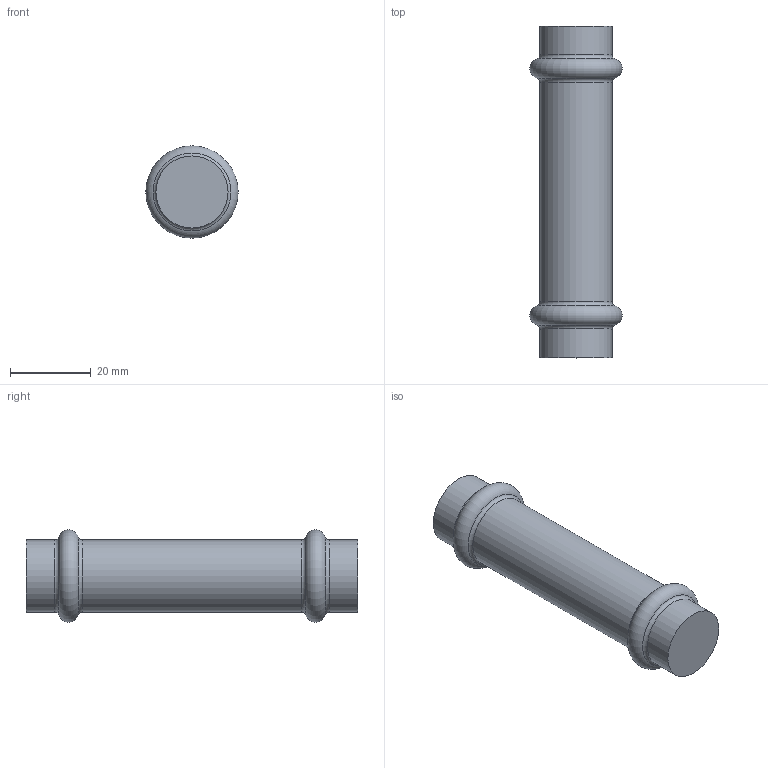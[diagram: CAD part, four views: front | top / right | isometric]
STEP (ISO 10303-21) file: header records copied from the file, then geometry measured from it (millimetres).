
FILE_DESCRIPTION(('STEP AP203'), '1');
FILE_NAME('VTi.904.I.001515', '', ('UNSPECIFIED'), ('UNSPECIFIED'), 'C3D Converter', 'C3D Toolkit', '');
FILE_SCHEMA(('CONFIG_CONTROL_DESIGN'));
Length unit declared in the file: millimetre
Bounding box: 22.78 x 82 x 22.78 mm (x, y, z)
Volume: 21664.1 mm3; surface area: 5494.5 mm2
Topology: 1 solids, 1 shells, 11 faces, 19 edges, 10 vertices
Faces by surface type: torus 6, cylinder 3, plane 2
Full cylindrical faces by diameter (mm): 17.8 x3
Entity records: 254 total; most frequent: DIRECTION 44, CARTESIAN_POINT 32, AXIS2_PLACEMENT_3D 22, EDGE_LOOP 20, ORIENTED_EDGE 20, FACE_OUTER_BOUND 18, ADVANCED_FACE 11, EDGE_CURVE 10
